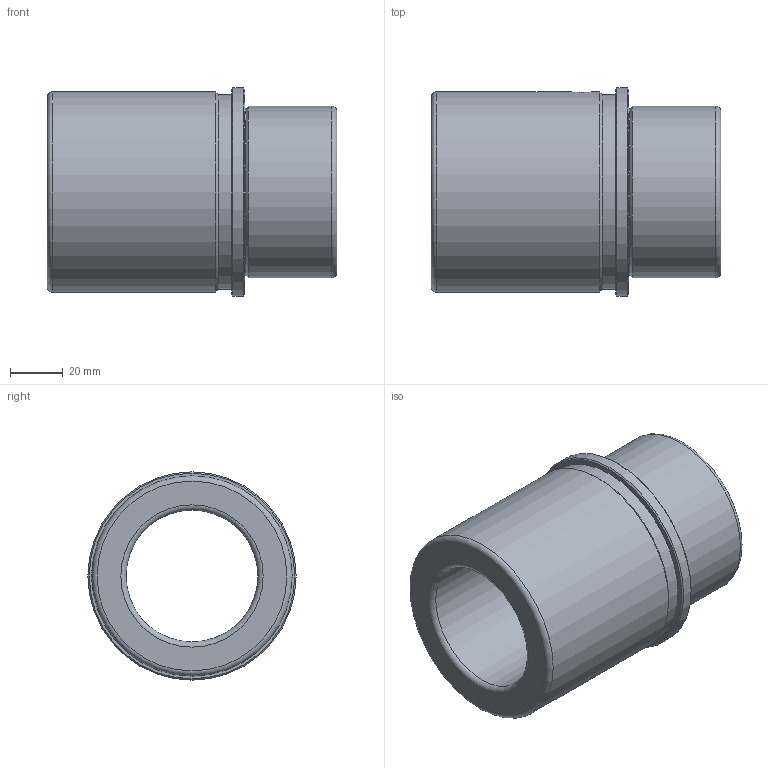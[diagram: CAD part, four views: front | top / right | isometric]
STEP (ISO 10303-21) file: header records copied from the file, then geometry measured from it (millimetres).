
FILE_DESCRIPTION( ( 'STEP AP214' ), '1' );
FILE_NAME( 'p:/temp/worker_30/temp/exporttempdir_4612_98_UeS2M/format_2/WZ - 4055 50 x 110.stp', '2020-12-04T19:47:43', ( 'License CC BY-ND 4.0' ), ( 'CADENAS' ), ' ', 'PARTsolutions', ' ' );
FILE_SCHEMA( ( 'AUTOMOTIVE_DESIGN { 1 0 10303 214 1 1 1 1 }' ) );
Length unit declared in the file: millimetre
Products named in the file (1): _WZ - 4055 50 x 110
Bounding box: 110 x 79 x 79 mm (x, y, z)
Volume: 238916.2 mm3; surface area: 48555.9 mm2
Topology: 1 solids, 1 shells, 21 faces, 38 edges, 22 vertices
Faces by surface type: cylinder 7, cone 5, plane 5, torus 4
Full cylindrical faces by diameter (mm): 8.376 x1, 50 x1, 63 x1, 65 x1, 74 x1, 76 x1, 79 x1
Entity records: 750 total; most frequent: CARTESIAN_POINT 196, DIRECTION 84, EDGE_LOOP 44, ORIENTED_EDGE 44, AXIS2_PLACEMENT_3D 42, FACE_OUTER_BOUND 32, EDGE_CURVE 22, VERTEX_POINT 22
